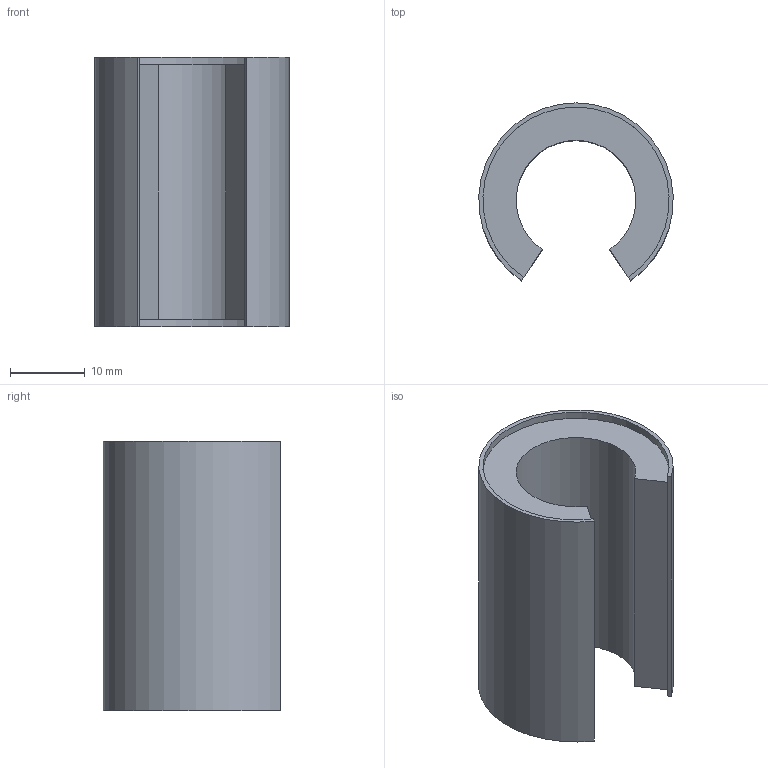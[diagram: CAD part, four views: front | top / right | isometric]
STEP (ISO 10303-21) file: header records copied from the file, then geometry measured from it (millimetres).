
FILE_DESCRIPTION(/* description */ (''),/* implementation_level */ '2;1');
FILE_NAME(/* name */ 'W:\WEBOVKY\Knecht\SBE (O)-UU\SBE (0)-16-UU\SME (O)-16-UU.stp',/* time_stamp */ '2021-03-08T14:32:35+01:00',/* author */ ('mkorenek'),/* organization */ (''),/* preprocessor_version */ 'ST-DEVELOPER v18.1',/* originating_system */ 'Autodesk Inventor 2021',/* authorisation */ '');
FILE_SCHEMA (('AUTOMOTIVE_DESIGN { 1 0 10303 214 3 1 1 }'));
Length unit declared in the file: millimetre
Products named in the file (3): LME-16-UU; vnějšek pouzdra; vnitřek pouzdra
Assembly tree (2 placements, depth 2):
  LME-16-UU
    vnějšek pouzdra
    vnitřek pouzdra
Bounding box: 25.98 x 23.76 x 36 mm (x, y, z)
Volume: 9157.4 mm3; surface area: 9080.5 mm2
Topology: 2 solids, 2 shells, 12 faces, 24 edges, 16 vertices
Faces by surface type: plane 8, cylinder 4
Entity records: 443 total; most frequent: DIRECTION 66, CARTESIAN_POINT 57, ORIENTED_EDGE 48, AXIS2_PLACEMENT_3D 25, EDGE_CURVE 24, LINE 16, VECTOR 16, VERTEX_POINT 16
